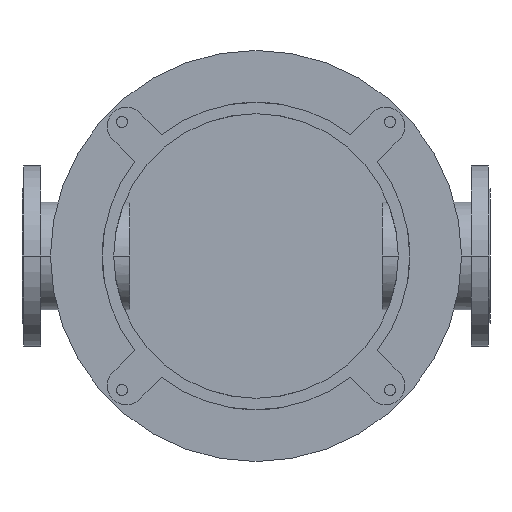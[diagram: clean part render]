
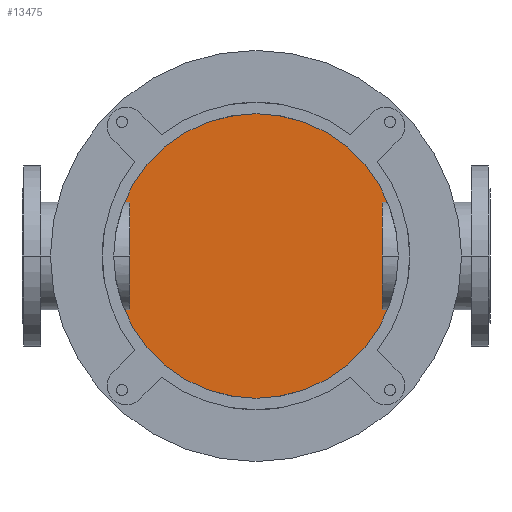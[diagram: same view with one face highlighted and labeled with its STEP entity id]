
A CAD part, front view. The second image highlights one B-rep face of the part: STEP entity #13475.
In plain terms, the highlighted planar face has unit normal (0, -1, 0).
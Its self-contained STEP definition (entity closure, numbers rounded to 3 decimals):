
#2805=CARTESIAN_POINT('',(0.,500.,0.));
#2806=DIRECTION('',(0.,-1.,0.));
#2807=DIRECTION('',(0.,0.,1.));
#2808=AXIS2_PLACEMENT_3D('',#2805,#2806,#2807);
#2938=CARTESIAN_POINT('',(0.,500.,0.));
#2939=DIRECTION('',(0.,-1.,0.));
#2940=DIRECTION('',(0.,0.,-1.));
#2941=AXIS2_PLACEMENT_3D('',#2938,#2939,#2940);
#8620=CARTESIAN_POINT('',(0.,500.,240.));
#8621=CARTESIAN_POINT('',(0.,500.,-240.));
#8622=VERTEX_POINT('',#8620);
#8623=VERTEX_POINT('',#8621);
#13465=CARTESIAN_POINT('',(0.,500.,0.));
#13466=DIRECTION('',(0.,1.,0.));
#13467=DIRECTION('',(0.,0.,-1.));
#13468=AXIS2_PLACEMENT_3D('',#13465,#13466,#13467);
#13469=PLANE('',#13468);
#13470=ORIENTED_EDGE('',*,*,#13449,.F.);
#13472=ORIENTED_EDGE('',*,*,#13471,.F.);
#13473=EDGE_LOOP('',(#13470,#13472));
#13474=FACE_OUTER_BOUND('',#13473,.F.);
#13475=ADVANCED_FACE('',(#13474),#13469,.F.);
#2809=CIRCLE('',#2808,240.);
#2942=CIRCLE('',#2941,240.);
#13449=EDGE_CURVE('',#8622,#8623,#2809,.T.);
#13471=EDGE_CURVE('',#8623,#8622,#2942,.T.);
